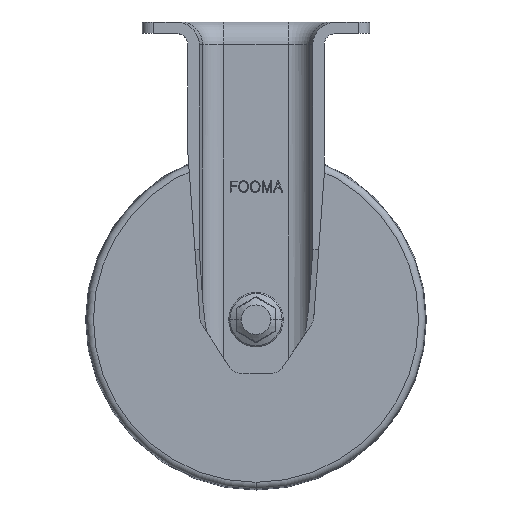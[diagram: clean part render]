
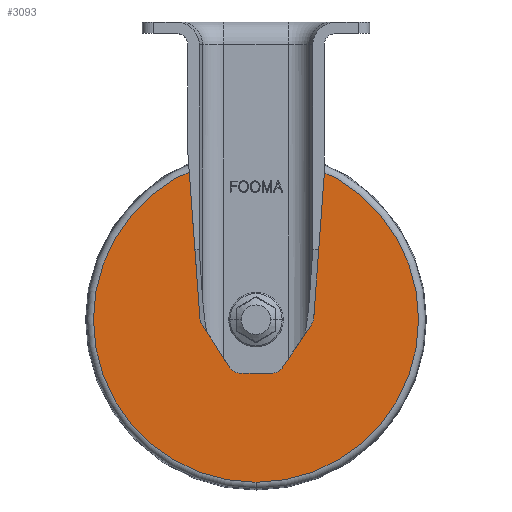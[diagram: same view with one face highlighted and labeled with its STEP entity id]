
A CAD part, front view. The second image highlights one B-rep face of the part: STEP entity #3093.
In plain terms, the highlighted planar face has unit normal (0, -1, 0) as drawn and (0, 1, 0) by its records, which use the part's own axes.
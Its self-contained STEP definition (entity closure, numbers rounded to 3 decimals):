
#249=CARTESIAN_POINT('',(37.8,71.56,182.556));
#250=VERTEX_POINT('',#249);
#258=CARTESIAN_POINT('',(37.8,71.56,39.444));
#259=VERTEX_POINT('',#258);
#260=CARTESIAN_POINT('',(37.8,71.56,111.));
#261=DIRECTION('',(0.0,1.0,0.0));
#262=DIRECTION('',(0.0,0.0,1.0));
#263=AXIS2_PLACEMENT_3D('',#260,#261,#262);
#264=CIRCLE('',#263,71.556);
#265=EDGE_CURVE('',#259,#250,#264,.T.);
#327=CARTESIAN_POINT('',(37.8,71.56,121.));
#328=VERTEX_POINT('',#327);
#344=CARTESIAN_POINT('',(37.8,71.56,101.));
#345=VERTEX_POINT('',#344);
#352=CARTESIAN_POINT('',(37.8,71.56,111.));
#353=DIRECTION('',(0.0,1.0,0.0));
#354=DIRECTION('',(0.0,0.0,1.0));
#355=AXIS2_PLACEMENT_3D('',#352,#353,#354);
#356=CIRCLE('',#355,10.0);
#357=EDGE_CURVE('',#345,#328,#356,.T.);
#3014=CARTESIAN_POINT('',(37.8,71.56,111.));
#3015=DIRECTION('',(0.0,1.0,0.0));
#3016=DIRECTION('',(0.0,0.0,1.0));
#3017=AXIS2_PLACEMENT_3D('',#3014,#3015,#3016);
#3018=CIRCLE('',#3017,10.0);
#3019=EDGE_CURVE('',#328,#345,#3018,.T.);
#3070=CARTESIAN_POINT('',(37.8,71.56,111.));
#3071=DIRECTION('',(0.0,1.0,0.0));
#3072=DIRECTION('',(0.0,0.0,1.0));
#3073=AXIS2_PLACEMENT_3D('',#3070,#3071,#3072);
#3074=CIRCLE('',#3073,71.556);
#3075=EDGE_CURVE('',#250,#259,#3074,.T.);
#3080=CARTESIAN_POINT('',(37.8,71.56,151.778));
#3081=DIRECTION('',(0.0,1.0,0.0));
#3082=DIRECTION('',(0.0,0.0,1.0));
#3083=AXIS2_PLACEMENT_3D('',#3080,#3081,#3082);
#3084=PLANE('',#3083);
#3085=ORIENTED_EDGE('',*,*,#3075,.T.);
#3086=ORIENTED_EDGE('',*,*,#265,.T.);
#3087=EDGE_LOOP('',(#3085,#3086));
#3088=FACE_OUTER_BOUND('',#3087,.T.);
#3089=ORIENTED_EDGE('',*,*,#3019,.F.);
#3090=ORIENTED_EDGE('',*,*,#357,.F.);
#3091=EDGE_LOOP('',(#3089,#3090));
#3092=FACE_BOUND('',#3091,.T.);
#3093=ADVANCED_FACE('',(#3088,#3092),#3084,.T.);
